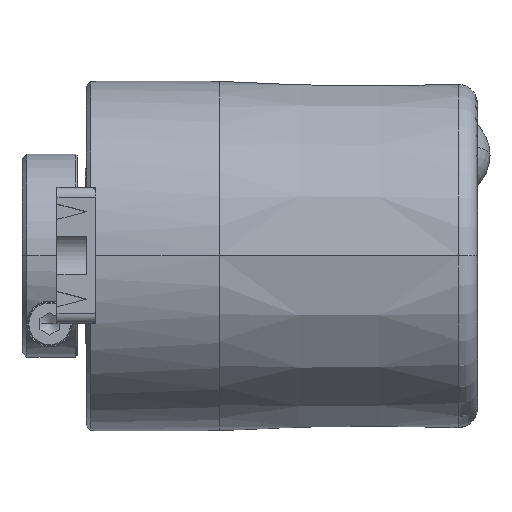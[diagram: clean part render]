
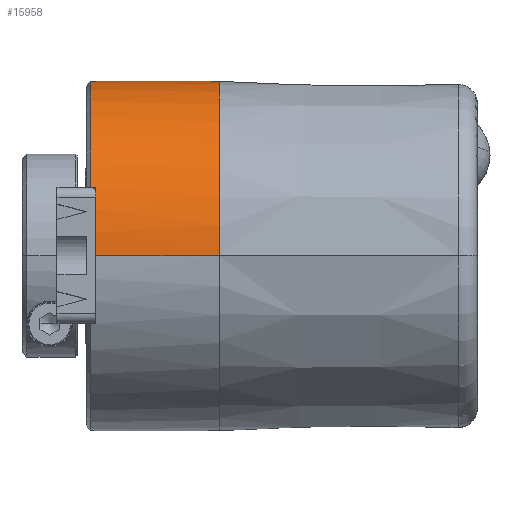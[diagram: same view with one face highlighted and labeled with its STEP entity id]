
A CAD part, top view. The second image highlights one B-rep face of the part: STEP entity #15958.
In plain terms, the highlighted cylindrical face has radius 18 mm (diameter 36 mm), a partial arc.
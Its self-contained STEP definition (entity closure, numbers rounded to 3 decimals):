
#1086 = AXIS2_PLACEMENT_3D ( 'NONE', #12757, #12755, #12753 ) ;
#2048 = LINE ( 'NONE', #10110, #2055 ) ;
#2052 = CIRCLE ( 'NONE', #9660, 18. ) ;
#2054 = LINE ( 'NONE', #10120, #2057 ) ;
#2055 = VECTOR ( 'NONE', #10119, 1000. ) ;
#2057 = VECTOR ( 'NONE', #10122, 1000. ) ;
#2058 = LINE ( 'NONE', #10121, #2060 ) ;
#2059 = CIRCLE ( 'NONE', #9661, 18. ) ;
#2060 = VECTOR ( 'NONE', #10117, 1000. ) ;
#2061 = CIRCLE ( 'NONE', #9662, 18. ) ;
#2745 = EDGE_LOOP ( 'NONE', ( #3144, #3147, #3146, #3148, #3149, #3150 ) ) ;
#3144 = ORIENTED_EDGE ( 'NONE', *, *, #14840, .T. ) ;
#3146 = ORIENTED_EDGE ( 'NONE', *, *, #14839, .T. ) ;
#3147 = ORIENTED_EDGE ( 'NONE', *, *, #14838, .T. ) ;
#3148 = ORIENTED_EDGE ( 'NONE', *, *, #14836, .T. ) ;
#3149 = ORIENTED_EDGE ( 'NONE', *, *, #14837, .F. ) ;
#3150 = ORIENTED_EDGE ( 'NONE', *, *, #14835, .F. ) ;
#5481 = CARTESIAN_POINT ( 'NONE',  ( 0.5, 0., -18. ) ) ;
#6014 = CARTESIAN_POINT ( 'NONE',  ( 0.5, 7., 16.583 ) ) ;
#6050 = CARTESIAN_POINT ( 'NONE',  ( 1., 7., 16.583 ) ) ;
#6101 = CARTESIAN_POINT ( 'NONE',  ( 13.7, 0., -18. ) ) ;
#6113 = CARTESIAN_POINT ( 'NONE',  ( 1., 0., 18. ) ) ;
#6143 = CARTESIAN_POINT ( 'NONE',  ( 13.7, 0., 18. ) ) ;
#6438 = VERTEX_POINT ( 'NONE', #6014 ) ;
#6474 = VERTEX_POINT ( 'NONE', #6050 ) ;
#6525 = VERTEX_POINT ( 'NONE', #6101 ) ;
#6537 = VERTEX_POINT ( 'NONE', #6113 ) ;
#6567 = VERTEX_POINT ( 'NONE', #6143 ) ;
#6925 = VERTEX_POINT ( 'NONE', #5481 ) ;
#7247 = CYLINDRICAL_SURFACE ( 'NONE', #1086, 18. ) ;
#9660 = AXIS2_PLACEMENT_3D ( 'NONE', #10123, #10124, #10125 ) ;
#9661 = AXIS2_PLACEMENT_3D ( 'NONE', #10128, #10129, #10130 ) ;
#9662 = AXIS2_PLACEMENT_3D ( 'NONE', #10132, #10133, #10134 ) ;
#10110 = CARTESIAN_POINT ( 'NONE',  ( -1.958, 0., 18. ) ) ;
#10117 = DIRECTION ( 'NONE',  ( -1., 0., 0. ) ) ;
#10119 = DIRECTION ( 'NONE',  ( -1., 0., 0. ) ) ;
#10120 = CARTESIAN_POINT ( 'NONE',  ( -1.958, 7., 16.583 ) ) ;
#10121 = CARTESIAN_POINT ( 'NONE',  ( -1.958, 0., -18. ) ) ;
#10122 = DIRECTION ( 'NONE',  ( 1., 0., 0. ) ) ;
#10123 = CARTESIAN_POINT ( 'NONE',  ( 1., 0., 0. ) ) ;
#10124 = DIRECTION ( 'NONE',  ( -1., 0., 0. ) ) ;
#10125 = DIRECTION ( 'NONE',  ( 0., 0., 1. ) ) ;
#10128 = CARTESIAN_POINT ( 'NONE',  ( 0.5, 0., 0. ) ) ;
#10129 = DIRECTION ( 'NONE',  ( 1., 0., 0. ) ) ;
#10130 = DIRECTION ( 'NONE',  ( 0., 0., -1. ) ) ;
#10132 = CARTESIAN_POINT ( 'NONE',  ( 13.7, 0., 0. ) ) ;
#10133 = DIRECTION ( 'NONE',  ( -1., 0., 0. ) ) ;
#10134 = DIRECTION ( 'NONE',  ( 0., 0., 1. ) ) ;
#12753 = DIRECTION ( 'NONE',  ( 0., 0., 1. ) ) ;
#12755 = DIRECTION ( 'NONE',  ( -1., 0., 0. ) ) ;
#12757 = CARTESIAN_POINT ( 'NONE',  ( -1.958, 0., 0. ) ) ;
#14700 = FACE_OUTER_BOUND ( 'NONE', #2745, .T. ) ;
#14835 = EDGE_CURVE ( 'NONE', #6567, #6537, #2048, .T. ) ;
#14836 = EDGE_CURVE ( 'NONE', #6438, #6474, #2054, .T. ) ;
#14837 = EDGE_CURVE ( 'NONE', #6537, #6474, #2052, .T. ) ;
#14838 = EDGE_CURVE ( 'NONE', #6525, #6925, #2058, .T. ) ;
#14839 = EDGE_CURVE ( 'NONE', #6925, #6438, #2059, .T. ) ;
#14840 = EDGE_CURVE ( 'NONE', #6567, #6525, #2061, .T. ) ;
#15958 = ADVANCED_FACE ( 'NONE', ( #14700 ), #7247, .T. ) ;
